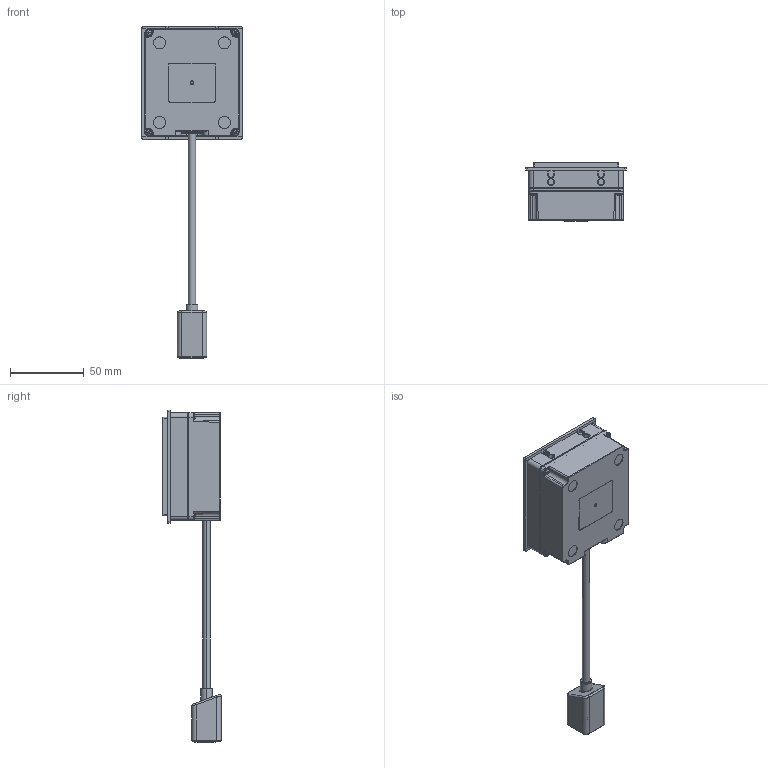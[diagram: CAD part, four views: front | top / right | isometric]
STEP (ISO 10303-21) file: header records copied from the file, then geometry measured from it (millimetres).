
FILE_DESCRIPTION (( 'STEP AP214' ), '1' );
FILE_NAME ('P-250.STEP', '2025-01-30T13:25:52', ( '' ), ( '' ), 'SwSTEP 2.0', 'SolidWorks 2018', '' );
FILE_SCHEMA (( 'AUTOMOTIVE_DESIGN' ));
Length unit declared in the file: millimetre
Products named in the file (10): P-250_00001_Main Housing Bottom; P-250_00005_Light Guide; P-250_00003_Window; RJ45; P-250_00020_CABLE RJ50; P-250; P-250_00002_Main Housing Top; P-250_00004_Bracket; P-250_00012_SCREW 2x10
Assembly tree (12 placements, depth 3):
  P-250
    P-250_00001_Main Housing Bottom
    P-250_00002_Main Housing Top
    P-250_00003_Window
    P-250_00020_CABLE RJ50
      P-250_00020_CABLE RJ50
      RJ45
    P-250_00004_Bracket
    P-250_00005_Light Guide
    P-250_00012_SCREW 2x10  x4
Bounding box: 68 x 39.6 x 225.59 mm (x, y, z)
Volume: 69436.9 mm3; surface area: 77028.6 mm2
Topology: 13 solids, 13 shells, 2206 faces, 5606 edges, 3368 vertices
Faces by surface type: plane 709, cylinder 499, bspline 378, cone 240, torus 212, sphere 168
Entity records: 73946 total; most frequent: CARTESIAN_POINT 32902, ORIENTED_EDGE 8128, DIRECTION 7248, EDGE_CURVE 4064, AXIS2_PLACEMENT_3D 2639, VERTEX_POINT 2545, VECTOR 1970, LINE 1970
